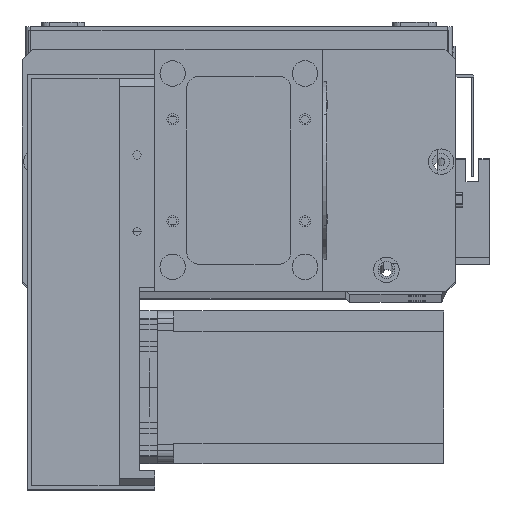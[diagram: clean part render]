
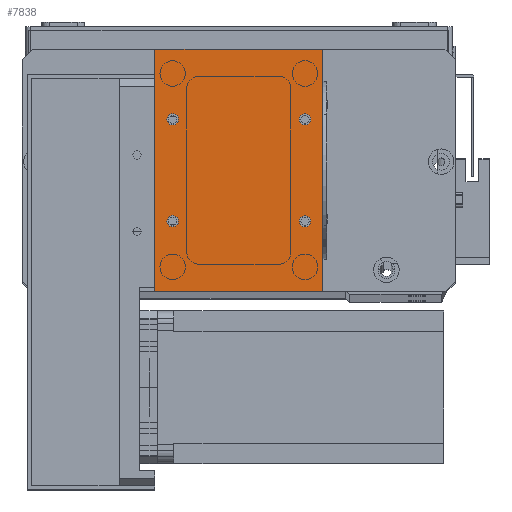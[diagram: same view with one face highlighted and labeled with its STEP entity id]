
A CAD part, top view. The second image highlights one B-rep face of the part: STEP entity #7838.
In plain terms, the highlighted planar face has unit normal (0, 0, 1).
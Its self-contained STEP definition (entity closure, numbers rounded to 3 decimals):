
#69 = DIRECTION ( 'NONE',  ( -1., 0., 0. ) ) ;
#324 = VECTOR ( 'NONE', #22346, 1000. ) ;
#349 = CIRCLE ( 'NONE', #24602, 2.25 ) ;
#747 = CARTESIAN_POINT ( 'NONE',  ( 0., 0., 2. ) ) ;
#1200 = VERTEX_POINT ( 'NONE', #13452 ) ;
#1234 = ORIENTED_EDGE ( 'NONE', *, *, #16033, .F. ) ;
#1528 = EDGE_CURVE ( 'NONE', #1200, #14807, #20643, .T. ) ;
#1717 = ORIENTED_EDGE ( 'NONE', *, *, #11595, .F. ) ;
#1804 = DIRECTION ( 'NONE',  ( -1., 0., 0. ) ) ;
#2028 = EDGE_CURVE ( 'NONE', #8569, #27077, #6253, .T. ) ;
#2639 = FACE_OUTER_BOUND ( 'NONE', #21262, .T. ) ;
#2979 = DIRECTION ( 'NONE',  ( 0., 0., 1. ) ) ;
#3137 = VERTEX_POINT ( 'NONE', #18879 ) ;
#3841 = DIRECTION ( 'NONE',  ( 0., 0., 1. ) ) ;
#4010 = AXIS2_PLACEMENT_3D ( 'NONE', #19102, #3841, #21661 ) ;
#4409 = CARTESIAN_POINT ( 'NONE',  ( 59., 67.5, 2. ) ) ;
#5053 = LINE ( 'NONE', #747, #17460 ) ;
#5315 = VERTEX_POINT ( 'NONE', #30271 ) ;
#5876 = DIRECTION ( 'NONE',  ( 0., -1., 0. ) ) ;
#6141 = DIRECTION ( 'NONE',  ( 0., 0., 1. ) ) ;
#6193 = AXIS2_PLACEMENT_3D ( 'NONE', #14998, #32795, #17562 ) ;
#6253 = CIRCLE ( 'NONE', #7344, 2.25 ) ;
#6528 = CARTESIAN_POINT ( 'NONE',  ( 61.25, 67.5, 2. ) ) ;
#6529 = EDGE_LOOP ( 'NONE', ( #30259, #26479 ) ) ;
#6967 = DIRECTION ( 'NONE',  ( 1., 0., 0. ) ) ;
#7023 = DIRECTION ( 'NONE',  ( 0., 0., 1. ) ) ;
#7068 = CIRCLE ( 'NONE', #14792, 2.25 ) ;
#7130 = EDGE_CURVE ( 'NONE', #27117, #1200, #5053, .T. ) ;
#7344 = AXIS2_PLACEMENT_3D ( 'NONE', #21397, #6141, #23955 ) ;
#7503 = DIRECTION ( 'NONE',  ( 0., 0., 1. ) ) ;
#7511 = CARTESIAN_POINT ( 'NONE',  ( 66., 95., 2. ) ) ;
#7661 = CARTESIAN_POINT ( 'NONE',  ( 61.25, 27.5, 2. ) ) ;
#7838 = ADVANCED_FACE ( 'NONE', ( #29761, #22987, #9406, #16189, #2639 ), #14506, .F. ) ;
#7858 = CARTESIAN_POINT ( 'NONE',  ( 66., 0., 2. ) ) ;
#8569 = VERTEX_POINT ( 'NONE', #7661 ) ;
#8899 = DIRECTION ( 'NONE',  ( 0., 0., 1. ) ) ;
#9406 = FACE_BOUND ( 'NONE', #6529, .T. ) ;
#10304 = ORIENTED_EDGE ( 'NONE', *, *, #7130, .T. ) ;
#10616 = VERTEX_POINT ( 'NONE', #29909 ) ;
#11595 = EDGE_CURVE ( 'NONE', #30997, #3137, #31833, .T. ) ;
#11721 = ORIENTED_EDGE ( 'NONE', *, *, #22981, .F. ) ;
#12034 = CIRCLE ( 'NONE', #29867, 2.25 ) ;
#13213 = ORIENTED_EDGE ( 'NONE', *, *, #20475, .T. ) ;
#13452 = CARTESIAN_POINT ( 'NONE',  ( 0., 0., 2. ) ) ;
#13512 = EDGE_CURVE ( 'NONE', #14807, #29501, #14168, .T. ) ;
#14168 = LINE ( 'NONE', #7858, #26955 ) ;
#14506 = PLANE ( 'NONE',  #19300 ) ;
#14792 = AXIS2_PLACEMENT_3D ( 'NONE', #18249, #2979, #20796 ) ;
#14807 = VERTEX_POINT ( 'NONE', #19406 ) ;
#14998 = CARTESIAN_POINT ( 'NONE',  ( 59., 67.5, 2. ) ) ;
#16020 = ORIENTED_EDGE ( 'NONE', *, *, #26498, .F. ) ;
#16033 = EDGE_CURVE ( 'NONE', #17234, #26962, #30011, .T. ) ;
#16189 = FACE_BOUND ( 'NONE', #16287, .T. ) ;
#16287 = EDGE_LOOP ( 'NONE', ( #11721, #16020 ) ) ;
#17234 = VERTEX_POINT ( 'NONE', #21710 ) ;
#17460 = VECTOR ( 'NONE', #5876, 1000. ) ;
#17562 = DIRECTION ( 'NONE',  ( 1., 0., 0. ) ) ;
#17609 = CARTESIAN_POINT ( 'NONE',  ( 56.75, 27.5, 2. ) ) ;
#18249 = CARTESIAN_POINT ( 'NONE',  ( 59., 27.5, 2. ) ) ;
#18504 = AXIS2_PLACEMENT_3D ( 'NONE', #24180, #8899, #26760 ) ;
#18597 = ORIENTED_EDGE ( 'NONE', *, *, #27634, .F. ) ;
#18838 = ORIENTED_EDGE ( 'NONE', *, *, #28612, .F. ) ;
#18879 = CARTESIAN_POINT ( 'NONE',  ( 56.75, 67.5, 2. ) ) ;
#19102 = CARTESIAN_POINT ( 'NONE',  ( 7., 67.5, 2. ) ) ;
#19300 = AXIS2_PLACEMENT_3D ( 'NONE', #32316, #24635, #1804 ) ;
#19406 = CARTESIAN_POINT ( 'NONE',  ( 66., 0., 2. ) ) ;
#20475 = EDGE_CURVE ( 'NONE', #29501, #27117, #23479, .T. ) ;
#20549 = DIRECTION ( 'NONE',  ( 0., 1., 0. ) ) ;
#20582 = CIRCLE ( 'NONE', #18504, 2.25 ) ;
#20643 = LINE ( 'NONE', #24914, #324 ) ;
#20796 = DIRECTION ( 'NONE',  ( 1., 0., 0. ) ) ;
#21152 = EDGE_LOOP ( 'NONE', ( #1717, #18597 ) ) ;
#21262 = EDGE_LOOP ( 'NONE', ( #10304, #28144, #22939, #13213 ) ) ;
#21397 = CARTESIAN_POINT ( 'NONE',  ( 59., 27.5, 2. ) ) ;
#21514 = CIRCLE ( 'NONE', #6193, 2.25 ) ;
#21661 = DIRECTION ( 'NONE',  ( 1., 0., 0. ) ) ;
#21710 = CARTESIAN_POINT ( 'NONE',  ( 9.25, 67.5, 2. ) ) ;
#21877 = VECTOR ( 'NONE', #69, 1000. ) ;
#22225 = DIRECTION ( 'NONE',  ( 0., 0., 1. ) ) ;
#22287 = CARTESIAN_POINT ( 'NONE',  ( 7., 67.5, 2. ) ) ;
#22346 = DIRECTION ( 'NONE',  ( 1., 0., 0. ) ) ;
#22734 = CARTESIAN_POINT ( 'NONE',  ( 0., 95., 2. ) ) ;
#22768 = CARTESIAN_POINT ( 'NONE',  ( 7., 27.5, 2. ) ) ;
#22939 = ORIENTED_EDGE ( 'NONE', *, *, #13512, .T. ) ;
#22981 = EDGE_CURVE ( 'NONE', #10616, #5315, #20582, .T. ) ;
#22987 = FACE_BOUND ( 'NONE', #21152, .T. ) ;
#23479 = LINE ( 'NONE', #28126, #21877 ) ;
#23955 = DIRECTION ( 'NONE',  ( 1., 0., 0. ) ) ;
#24180 = CARTESIAN_POINT ( 'NONE',  ( 7., 27.5, 2. ) ) ;
#24602 = AXIS2_PLACEMENT_3D ( 'NONE', #22287, #7023, #24842 ) ;
#24635 = DIRECTION ( 'NONE',  ( 0., 0., -1. ) ) ;
#24842 = DIRECTION ( 'NONE',  ( 1., 0., 0. ) ) ;
#24914 = CARTESIAN_POINT ( 'NONE',  ( 0., 0., 2. ) ) ;
#25065 = AXIS2_PLACEMENT_3D ( 'NONE', #4409, #22225, #6967 ) ;
#25344 = DIRECTION ( 'NONE',  ( 1., 0., 0. ) ) ;
#25452 = EDGE_LOOP ( 'NONE', ( #1234, #18838 ) ) ;
#26479 = ORIENTED_EDGE ( 'NONE', *, *, #29092, .F. ) ;
#26498 = EDGE_CURVE ( 'NONE', #5315, #10616, #12034, .T. ) ;
#26760 = DIRECTION ( 'NONE',  ( 1., 0., 0. ) ) ;
#26955 = VECTOR ( 'NONE', #20549, 1000. ) ;
#26962 = VERTEX_POINT ( 'NONE', #29759 ) ;
#27077 = VERTEX_POINT ( 'NONE', #17609 ) ;
#27117 = VERTEX_POINT ( 'NONE', #22734 ) ;
#27634 = EDGE_CURVE ( 'NONE', #3137, #30997, #21514, .T. ) ;
#28126 = CARTESIAN_POINT ( 'NONE',  ( 0., 95., 2. ) ) ;
#28144 = ORIENTED_EDGE ( 'NONE', *, *, #1528, .T. ) ;
#28612 = EDGE_CURVE ( 'NONE', #26962, #17234, #349, .T. ) ;
#29092 = EDGE_CURVE ( 'NONE', #27077, #8569, #7068, .T. ) ;
#29501 = VERTEX_POINT ( 'NONE', #7511 ) ;
#29759 = CARTESIAN_POINT ( 'NONE',  ( 4.75, 67.5, 2. ) ) ;
#29761 = FACE_BOUND ( 'NONE', #25452, .T. ) ;
#29867 = AXIS2_PLACEMENT_3D ( 'NONE', #22768, #7503, #25344 ) ;
#29909 = CARTESIAN_POINT ( 'NONE',  ( 9.25, 27.5, 2. ) ) ;
#30011 = CIRCLE ( 'NONE', #4010, 2.25 ) ;
#30259 = ORIENTED_EDGE ( 'NONE', *, *, #2028, .F. ) ;
#30271 = CARTESIAN_POINT ( 'NONE',  ( 4.75, 27.5, 2. ) ) ;
#30997 = VERTEX_POINT ( 'NONE', #6528 ) ;
#31833 = CIRCLE ( 'NONE', #25065, 2.25 ) ;
#32316 = CARTESIAN_POINT ( 'NONE',  ( 0., 0., 2. ) ) ;
#32795 = DIRECTION ( 'NONE',  ( 0., 0., 1. ) ) ;
